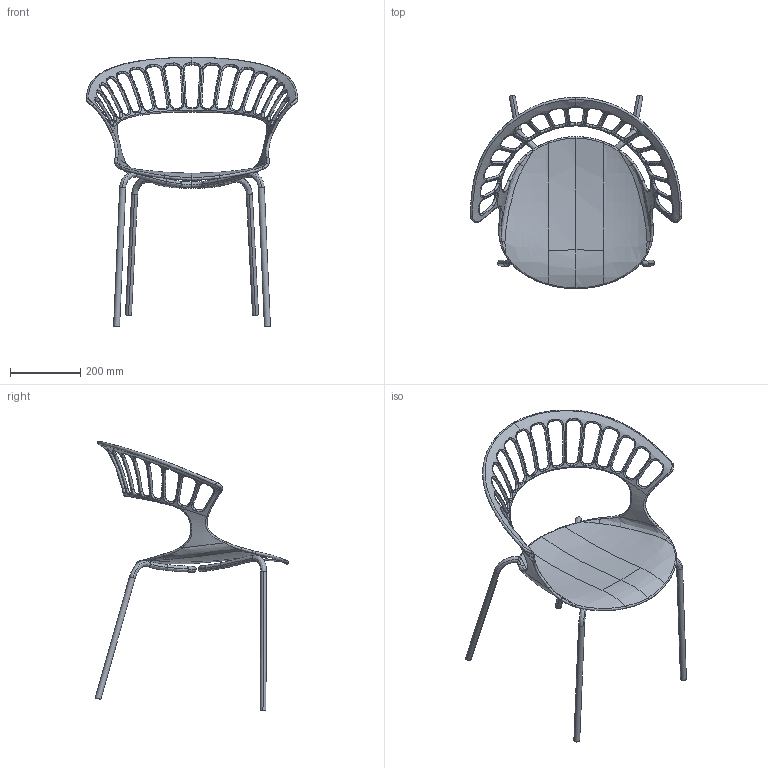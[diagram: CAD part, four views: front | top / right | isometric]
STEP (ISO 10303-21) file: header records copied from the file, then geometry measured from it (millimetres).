
FILE_DESCRIPTION(/* description */ (''),/* implementation_level */ '2;1');
FILE_NAME(/* name */ 'tiara_3d_model',/* time_stamp */ '2011-02-15T09:18:31+02:00',/* author */ (''),/* organization */ (''),/* preprocessor_version */ 'ST-DEVELOPER v10',/* originating_system */ '',/* authorisation */ '');
FILE_SCHEMA (('CONFIG_CONTROL_DESIGN'));
Length unit declared in the file: millimetre
Products named in the file (1): 1
Bounding box: 599.98 x 549.27 x 764.57 mm (x, y, z)
Volume: 570667.3 mm3; surface area: 529905.7 mm2
Topology: 2 solids, 232 shells, 274 faces, 1456 edges, 1416 vertices
Faces by surface type: bspline 274
Entity records: 67734 total; most frequent: CARTESIAN_POINT 60280, ORIENTED_EDGE 1580, EDGE_CURVE 1456, VERTEX_POINT 1416, B_SPLINE_CURVE_WITH_KNOTS 1341, EDGE_LOOP 296, ADVANCED_FACE 274, FACE_OUTER_BOUND 274
